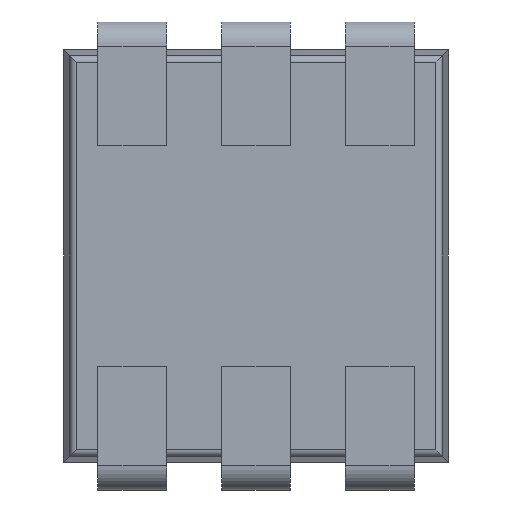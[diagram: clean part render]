
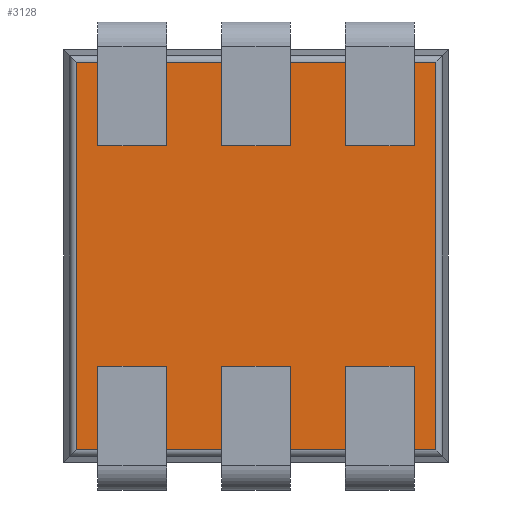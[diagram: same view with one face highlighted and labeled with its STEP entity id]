
A CAD part, front view. The second image highlights one B-rep face of the part: STEP entity #3128.
In plain terms, the highlighted planar face has unit normal (0, -1, 0).
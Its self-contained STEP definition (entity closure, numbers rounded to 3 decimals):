
#3089 = CARTESIAN_POINT ( 'NONE',  ( 1.305, 0.15, -1.407 ) ) ;
#3090 = VERTEX_POINT ( 'NONE', #3089 ) ;
#3091 = CARTESIAN_POINT ( 'NONE',  ( 1.305, 0.15, 1.407 ) ) ;
#3092 = VERTEX_POINT ( 'NONE', #3091 ) ;
#3093 = CARTESIAN_POINT ( 'NONE',  ( 1.305, 0.15, 0. ) ) ;
#3094 = DIRECTION ( 'NONE',  ( 0., 0., 1. ) ) ;
#3095 = VECTOR ( 'NONE', #3094, 1000. ) ;
#3096 = LINE ( 'NONE', #3093, #3095 ) ;
#3097 = EDGE_CURVE ( 'NONE', #3090, #3092, #3096, .T. ) ;
#3098 = ORIENTED_EDGE ( 'NONE', *, *, #3097, .T. ) ;
#3099 = CARTESIAN_POINT ( 'NONE',  ( -1.305, 0.15, 1.407 ) ) ;
#3100 = VERTEX_POINT ( 'NONE', #3099 ) ;
#3101 = CARTESIAN_POINT ( 'NONE',  ( 0., 0.15, 1.407 ) ) ;
#3102 = DIRECTION ( 'NONE',  ( -1., 0., 0. ) ) ;
#3103 = VECTOR ( 'NONE', #3102, 1000. ) ;
#3104 = LINE ( 'NONE', #3101, #3103 ) ;
#3105 = EDGE_CURVE ( 'NONE', #3092, #3100, #3104, .T. ) ;
#3106 = ORIENTED_EDGE ( 'NONE', *, *, #3105, .T. ) ;
#3107 = CARTESIAN_POINT ( 'NONE',  ( -1.305, 0.15, -1.407 ) ) ;
#3108 = VERTEX_POINT ( 'NONE', #3107 ) ;
#3109 = CARTESIAN_POINT ( 'NONE',  ( -1.305, 0.15, 0. ) ) ;
#3110 = DIRECTION ( 'NONE',  ( 0., 0., -1. ) ) ;
#3111 = VECTOR ( 'NONE', #3110, 1000. ) ;
#3112 = LINE ( 'NONE', #3109, #3111 ) ;
#3113 = EDGE_CURVE ( 'NONE', #3100, #3108, #3112, .T. ) ;
#3114 = ORIENTED_EDGE ( 'NONE', *, *, #3113, .T. ) ;
#3115 = CARTESIAN_POINT ( 'NONE',  ( 0., 0.15, -1.407 ) ) ;
#3116 = DIRECTION ( 'NONE',  ( 1., 0., 0. ) ) ;
#3117 = VECTOR ( 'NONE', #3116, 1000. ) ;
#3118 = LINE ( 'NONE', #3115, #3117 ) ;
#3119 = EDGE_CURVE ( 'NONE', #3108, #3090, #3118, .T. ) ;
#3120 = ORIENTED_EDGE ( 'NONE', *, *, #3119, .T. ) ;
#3121 = EDGE_LOOP ( 'NONE', ( #3098, #3106, #3114, #3120 ) ) ;
#3122 = FACE_OUTER_BOUND ( 'NONE', #3121, .T. ) ;
#3123 = CARTESIAN_POINT ( 'NONE',  ( 0., 0.15, 0. ) ) ;
#3124 = DIRECTION ( 'NONE',  ( 0., -1., 0. ) ) ;
#3125 = DIRECTION ( 'NONE',  ( 0., 0., -1. ) ) ;
#3126 = AXIS2_PLACEMENT_3D ( 'NONE', #3123, #3124, #3125 ) ;
#3127 = PLANE ( 'NONE', #3126 ) ;
#3128 = ADVANCED_FACE ( 'NONE', ( #3122 ), #3127, .T. ) ;
